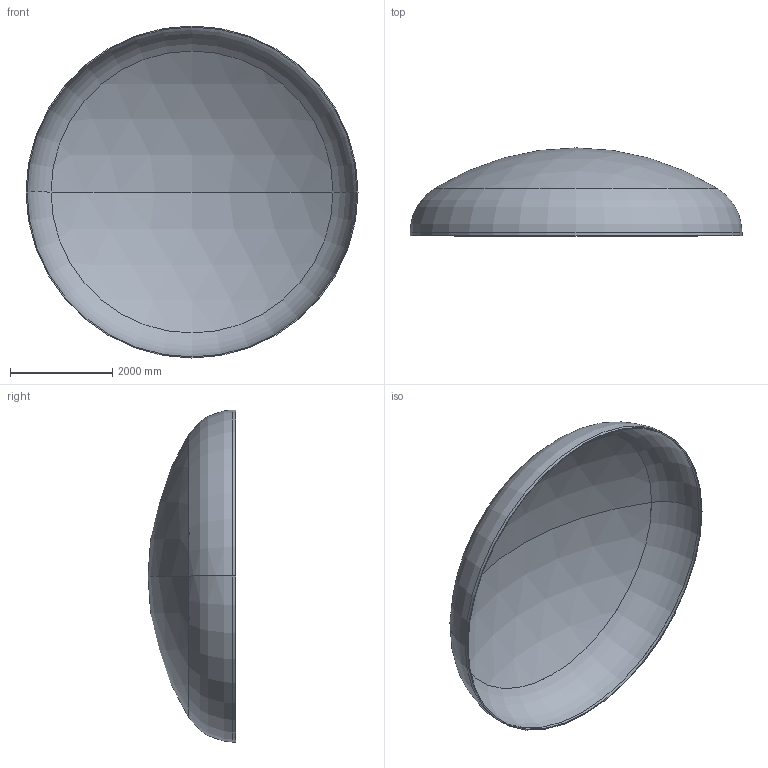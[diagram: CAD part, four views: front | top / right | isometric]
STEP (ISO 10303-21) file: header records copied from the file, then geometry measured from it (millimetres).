
FILE_DESCRIPTION (( 'STEP AP203' ), '1' );
FILE_NAME ('DIN 28013 Korbbogenform_-_Boden DIN 28013 - 6500 x 60 - I - s=20.step', '2016-07-04T10:40:25', ( '' ), ( '' ), 'SwSTEP 2.0', 'SolidWorks 2013', '' );
FILE_SCHEMA (( 'CONFIG_CONTROL_DESIGN' ));
Length unit declared in the file: millimetre
Products named in the file (1): DIN 28013 Korbbogenform_-_Boden DIN 28013 - 6500 x 60 - I - s=20
Bounding box: 6500 x 1720.91 x 6500 mm (x, y, z)
Volume: 939744169.3 mm3; surface area: 94382366.8 mm2
Topology: 1 solids, 1 shells, 13 faces, 24 edges, 14 vertices
Faces by surface type: torus 4, cylinder 4, sphere 4, plane 1
Entity records: 407 total; most frequent: DIRECTION 72, CARTESIAN_POINT 52, ORIENTED_EDGE 48, AXIS2_PLACEMENT_3D 34, EDGE_CURVE 24, CIRCLE 20, EDGE_LOOP 14, VERTEX_POINT 14
